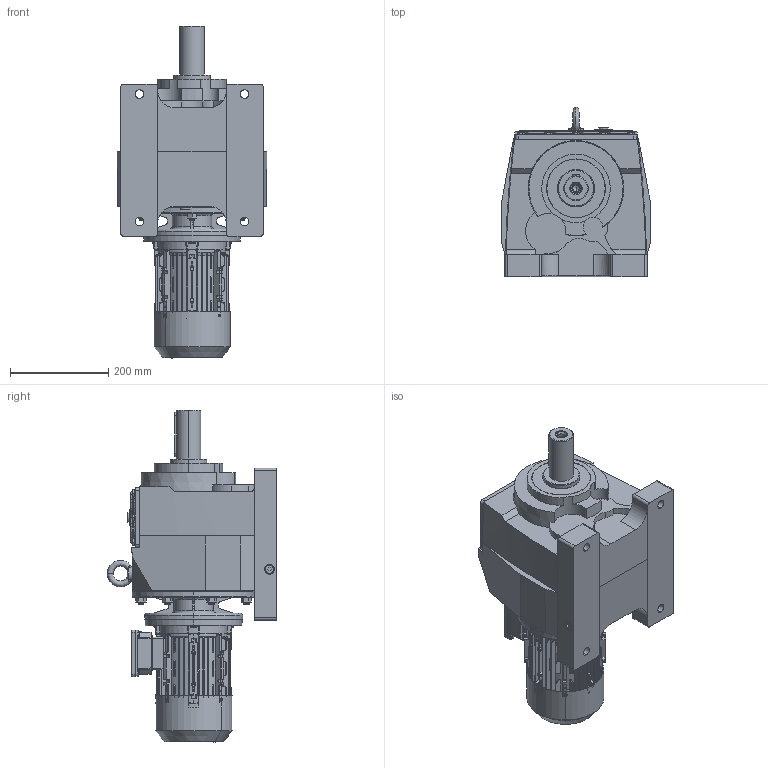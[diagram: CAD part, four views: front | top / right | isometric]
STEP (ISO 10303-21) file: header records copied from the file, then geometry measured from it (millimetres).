
FILE_DESCRIPTION (( 'STEP AP203' ), '1' );
FILE_NAME ('MV_473_0_MX-80-B5.STEP', '2018-11-27T11:31:08', ( '' ), ( '' ), 'SwSTEP 2.0', 'SolidWorks 2012', '' );
FILE_SCHEMA (( 'CONFIG_CONTROL_DESIGN' ));
Products named in the file (15): MV_473_0_MX-80-B5; MX3-80_B5; Flansch-80_IMB5; IE 3 80 Plug; IE3 80 terminal box cover; IE3 80 Teriminal box base; IE3 80 Gasket for T-box(base); IE3 80 Cable glands; IE3 80 Fan cover; IE3 80 Shield; IE3 80 Casing; IE3 80 Shaft; ML4A_Varsayìlan; M473_Varsayìlan; 4380B5_Varsayìlan
Assembly tree (14 placements, depth 3):
  MV_473_0_MX-80-B5
    M473_Varsayìlan
    4380B5_Varsayìlan
    ML4A_Varsayìlan
    MX3-80_B5
      IE3 80 Casing
      IE3 80 Shield
      IE3 80 Shaft
      IE3 80 Fan cover
      IE3 80 Teriminal box base
      IE3 80 Gasket for T-box(base)
      IE3 80 terminal box cover
      IE3 80 Cable glands
      Flansch-80_IMB5
      IE 3 80 Plug
Bounding box: 306 x 345.92 x 677.5 mm (x, y, z)
Volume: 20536304.8 mm3; surface area: 1357517.7 mm2
Topology: 13 solids, 13 shells, 5198 faces, 13039 edges, 7890 vertices
Faces by surface type: bspline 1432, plane 1431, cylinder 1379, cone 595, torus 249, sphere 112
Entity records: 211512 total; most frequent: CARTESIAN_POINT 97676, ORIENTED_EDGE 25784, DIRECTION 20310, EDGE_CURVE 12892, VERTEX_POINT 7874, AXIS2_PLACEMENT_3D 7699, EDGE_LOOP 5594, ADVANCED_FACE 5198
